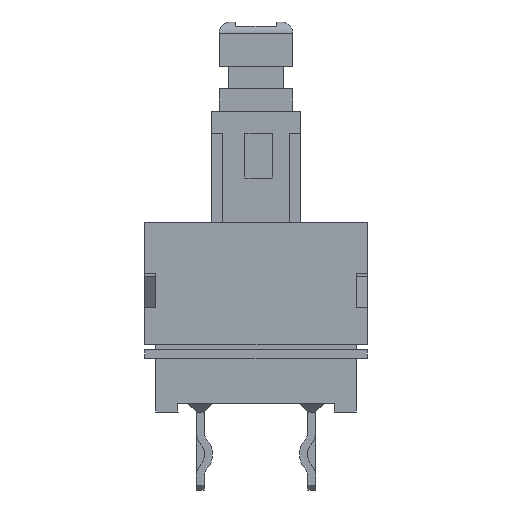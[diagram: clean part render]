
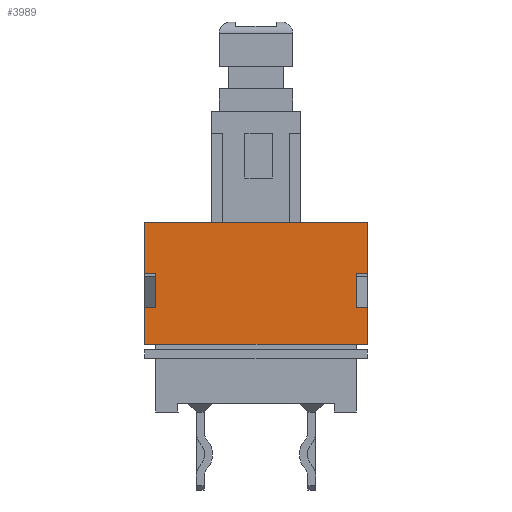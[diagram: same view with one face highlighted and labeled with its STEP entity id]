
A CAD part, front view. The second image highlights one B-rep face of the part: STEP entity #3989.
In plain terms, the highlighted planar face has unit normal (0, -1, 0).
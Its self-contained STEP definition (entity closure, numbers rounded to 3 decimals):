
#84 = DIRECTION ( 'NONE',  ( 0., 0., 1. ) ) ;
#362 = VERTEX_POINT ( 'NONE', #2980 ) ;
#363 = VECTOR ( 'NONE', #4728, 1000. ) ;
#581 = CARTESIAN_POINT ( 'NONE',  ( -5., -5., 8.5 ) ) ;
#596 = PLANE ( 'NONE',  #7759 ) ;
#622 = DIRECTION ( 'NONE',  ( 0., 0., 1. ) ) ;
#832 = CARTESIAN_POINT ( 'NONE',  ( 5., -5., 4.7 ) ) ;
#965 = VECTOR ( 'NONE', #7091, 1000. ) ;
#1034 = DIRECTION ( 'NONE',  ( 0., 0., 1. ) ) ;
#1044 = EDGE_CURVE ( 'NONE', #4948, #8066, #5319, .T. ) ;
#1067 = VERTEX_POINT ( 'NONE', #7838 ) ;
#1287 = VECTOR ( 'NONE', #622, 1000. ) ;
#1360 = CARTESIAN_POINT ( 'NONE',  ( 5., -5., 4.7 ) ) ;
#1495 = DIRECTION ( 'NONE',  ( 1., 0., 0. ) ) ;
#1514 = VECTOR ( 'NONE', #1034, 1000. ) ;
#1556 = EDGE_CURVE ( 'NONE', #3015, #4948, #5589, .T. ) ;
#1671 = CARTESIAN_POINT ( 'NONE',  ( -5., -5., 3.05 ) ) ;
#1697 = EDGE_CURVE ( 'NONE', #1067, #3052, #2075, .T. ) ;
#1749 = ORIENTED_EDGE ( 'NONE', *, *, #1556, .F. ) ;
#1869 = CARTESIAN_POINT ( 'NONE',  ( -5., -5., 6.2 ) ) ;
#1952 = LINE ( 'NONE', #4483, #3806 ) ;
#2075 = LINE ( 'NONE', #4606, #965 ) ;
#2181 = ORIENTED_EDGE ( 'NONE', *, *, #4574, .F. ) ;
#2186 = DIRECTION ( 'NONE',  ( 0., 0., -1. ) ) ;
#2205 = CARTESIAN_POINT ( 'NONE',  ( -5., -5., 3.05 ) ) ;
#2247 = DIRECTION ( 'NONE',  ( 0., 0., 1. ) ) ;
#2250 = VECTOR ( 'NONE', #2462, 1000. ) ;
#2316 = EDGE_LOOP ( 'NONE', ( #5900, #4658, #3803, #4738, #6401, #2181, #7347, #1749, #3020, #6257, #6011, #3237 ) ) ;
#2373 = CARTESIAN_POINT ( 'NONE',  ( -4.5, -5., 4.7 ) ) ;
#2417 = VECTOR ( 'NONE', #84, 1000. ) ;
#2462 = DIRECTION ( 'NONE',  ( -1., 0., 0. ) ) ;
#2662 = VECTOR ( 'NONE', #1495, 1000. ) ;
#2753 = VERTEX_POINT ( 'NONE', #3498 ) ;
#2980 = CARTESIAN_POINT ( 'NONE',  ( -4.5, -5., 6.2 ) ) ;
#3015 = VERTEX_POINT ( 'NONE', #6562 ) ;
#3020 = ORIENTED_EDGE ( 'NONE', *, *, #4546, .T. ) ;
#3052 = VERTEX_POINT ( 'NONE', #1671 ) ;
#3120 = CARTESIAN_POINT ( 'NONE',  ( 5., -5., 3.05 ) ) ;
#3151 = VERTEX_POINT ( 'NONE', #581 ) ;
#3172 = CARTESIAN_POINT ( 'NONE',  ( 4.5, -5., 4.7 ) ) ;
#3235 = LINE ( 'NONE', #5746, #2417 ) ;
#3237 = ORIENTED_EDGE ( 'NONE', *, *, #5641, .T. ) ;
#3454 = VECTOR ( 'NONE', #2186, 1000. ) ;
#3455 = VERTEX_POINT ( 'NONE', #832 ) ;
#3469 = VECTOR ( 'NONE', #3903, 1000. ) ;
#3498 = CARTESIAN_POINT ( 'NONE',  ( -4.5, -5., 4.7 ) ) ;
#3525 = EDGE_CURVE ( 'NONE', #3052, #5868, #5383, .T. ) ;
#3617 = CARTESIAN_POINT ( 'NONE',  ( 4.5, -5., 6.2 ) ) ;
#3771 = LINE ( 'NONE', #6271, #1287 ) ;
#3803 = ORIENTED_EDGE ( 'NONE', *, *, #3525, .F. ) ;
#3806 = VECTOR ( 'NONE', #6969, 1000. ) ;
#3903 = DIRECTION ( 'NONE',  ( 1., 0., 0. ) ) ;
#3989 = ADVANCED_FACE ( 'NONE', ( #6246 ), #596, .F. ) ;
#4127 = EDGE_CURVE ( 'NONE', #3151, #4173, #4650, .T. ) ;
#4173 = VERTEX_POINT ( 'NONE', #4689 ) ;
#4181 = LINE ( 'NONE', #6682, #1514 ) ;
#4272 = CARTESIAN_POINT ( 'NONE',  ( -5., -5., 4.7 ) ) ;
#4483 = CARTESIAN_POINT ( 'NONE',  ( -4.5, -5., 6.2 ) ) ;
#4546 = EDGE_CURVE ( 'NONE', #3015, #4173, #3235, .T. ) ;
#4574 = EDGE_CURVE ( 'NONE', #8066, #3455, #7003, .T. ) ;
#4606 = CARTESIAN_POINT ( 'NONE',  ( 5., -5., 3.05 ) ) ;
#4650 = LINE ( 'NONE', #7134, #2662 ) ;
#4658 = ORIENTED_EDGE ( 'NONE', *, *, #4972, .T. ) ;
#4689 = CARTESIAN_POINT ( 'NONE',  ( 5., -5., 8.5 ) ) ;
#4728 = DIRECTION ( 'NONE',  ( 0., 0., 1. ) ) ;
#4738 = ORIENTED_EDGE ( 'NONE', *, *, #1697, .F. ) ;
#4887 = DIRECTION ( 'NONE',  ( -1., 0., 0. ) ) ;
#4888 = EDGE_CURVE ( 'NONE', #7384, #3151, #7814, .T. ) ;
#4948 = VERTEX_POINT ( 'NONE', #3617 ) ;
#4972 = EDGE_CURVE ( 'NONE', #2753, #5868, #7985, .T. ) ;
#5241 = VECTOR ( 'NONE', #4887, 1000. ) ;
#5319 = LINE ( 'NONE', #7793, #3454 ) ;
#5383 = LINE ( 'NONE', #7863, #6322 ) ;
#5589 = LINE ( 'NONE', #8072, #2250 ) ;
#5628 = DIRECTION ( 'NONE',  ( 0., 1., 0. ) ) ;
#5641 = EDGE_CURVE ( 'NONE', #7384, #362, #1952, .T. ) ;
#5746 = CARTESIAN_POINT ( 'NONE',  ( 5., -5., 3.05 ) ) ;
#5868 = VERTEX_POINT ( 'NONE', #4272 ) ;
#5900 = ORIENTED_EDGE ( 'NONE', *, *, #6149, .F. ) ;
#6011 = ORIENTED_EDGE ( 'NONE', *, *, #4888, .F. ) ;
#6149 = EDGE_CURVE ( 'NONE', #2753, #362, #3771, .T. ) ;
#6246 = FACE_OUTER_BOUND ( 'NONE', #2316, .T. ) ;
#6257 = ORIENTED_EDGE ( 'NONE', *, *, #4127, .F. ) ;
#6271 = CARTESIAN_POINT ( 'NONE',  ( -4.5, -5., 4.7 ) ) ;
#6322 = VECTOR ( 'NONE', #2247, 1000. ) ;
#6401 = ORIENTED_EDGE ( 'NONE', *, *, #7687, .T. ) ;
#6562 = CARTESIAN_POINT ( 'NONE',  ( 5., -5., 6.2 ) ) ;
#6682 = CARTESIAN_POINT ( 'NONE',  ( 5., -5., 3.05 ) ) ;
#6969 = DIRECTION ( 'NONE',  ( 1., 0., 0. ) ) ;
#7003 = LINE ( 'NONE', #1360, #3469 ) ;
#7091 = DIRECTION ( 'NONE',  ( -1., 0., 0. ) ) ;
#7134 = CARTESIAN_POINT ( 'NONE',  ( 5., -5., 8.5 ) ) ;
#7347 = ORIENTED_EDGE ( 'NONE', *, *, #1044, .F. ) ;
#7384 = VERTEX_POINT ( 'NONE', #1869 ) ;
#7687 = EDGE_CURVE ( 'NONE', #1067, #3455, #4181, .T. ) ;
#7759 = AXIS2_PLACEMENT_3D ( 'NONE', #3120, #5628, #8110 ) ;
#7793 = CARTESIAN_POINT ( 'NONE',  ( 4.5, -5., 4.7 ) ) ;
#7814 = LINE ( 'NONE', #2205, #363 ) ;
#7838 = CARTESIAN_POINT ( 'NONE',  ( 5., -5., 3.05 ) ) ;
#7863 = CARTESIAN_POINT ( 'NONE',  ( -5., -5., 3.05 ) ) ;
#7985 = LINE ( 'NONE', #2373, #5241 ) ;
#8066 = VERTEX_POINT ( 'NONE', #3172 ) ;
#8072 = CARTESIAN_POINT ( 'NONE',  ( 5., -5., 6.2 ) ) ;
#8110 = DIRECTION ( 'NONE',  ( 1., 0., 0. ) ) ;
